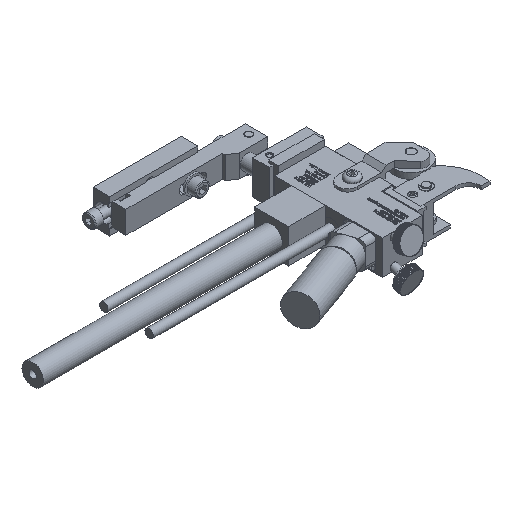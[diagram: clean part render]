
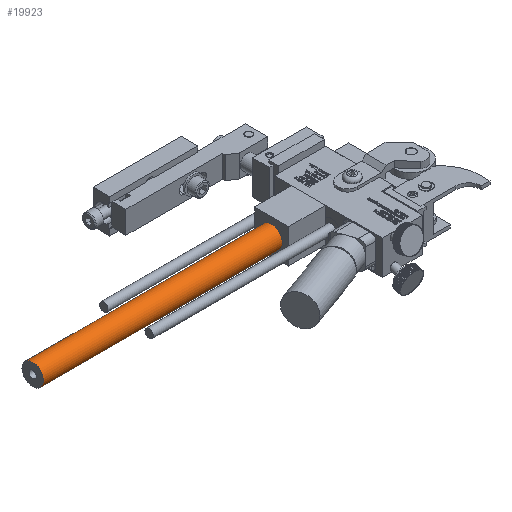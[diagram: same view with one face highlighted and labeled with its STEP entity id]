
A CAD part, isometric view. The second image highlights one B-rep face of the part: STEP entity #19923.
In plain terms, the highlighted cylindrical face has radius 5.969 mm (diameter 11.938 mm), a full revolution.
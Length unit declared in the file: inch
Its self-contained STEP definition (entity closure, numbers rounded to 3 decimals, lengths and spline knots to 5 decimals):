
#19896=CARTESIAN_POINT('',(-1.4995,0.8125,0.375));
#19897=DIRECTION('',(-1.0,0.,0.));
#19898=DIRECTION('',(0.0,0.0,-1.0));
#19899=AXIS2_PLACEMENT_3D('',#19896,#19897,#19898);
#19900=CYLINDRICAL_SURFACE('',#19899,0.235);
#19901=CARTESIAN_POINT('',(-6.7495,0.8125,0.61));
#19902=VERTEX_POINT('',#19901);
#19903=CARTESIAN_POINT('',(-6.7495,0.8125,0.375));
#19904=DIRECTION('',(1.0,0.0,0.0));
#19905=DIRECTION('',(0.0,0.0,-1.0));
#19906=AXIS2_PLACEMENT_3D('',#19903,#19904,#19905);
#19907=CIRCLE('',#19906,0.235);
#19908=EDGE_CURVE('',#19902,#19902,#19907,.T.);
#19909=ORIENTED_EDGE('',*,*,#19908,.T.);
#19910=EDGE_LOOP('',(#19909));
#19911=FACE_OUTER_BOUND('',#19910,.T.);
#19912=CARTESIAN_POINT('',(-1.4995,0.8125,0.61));
#19913=VERTEX_POINT('',#19912);
#19914=CARTESIAN_POINT('',(-1.4995,0.8125,0.375));
#19915=DIRECTION('',(1.0,0.0,0.0));
#19916=DIRECTION('',(0.0,0.0,-1.0));
#19917=AXIS2_PLACEMENT_3D('',#19914,#19915,#19916);
#19918=CIRCLE('',#19917,0.235);
#19919=EDGE_CURVE('',#19913,#19913,#19918,.T.);
#19920=ORIENTED_EDGE('',*,*,#19919,.F.);
#19921=EDGE_LOOP('',(#19920));
#19922=FACE_BOUND('',#19921,.T.);
#19923=ADVANCED_FACE('',(#19911,#19922),#19900,.T.);
